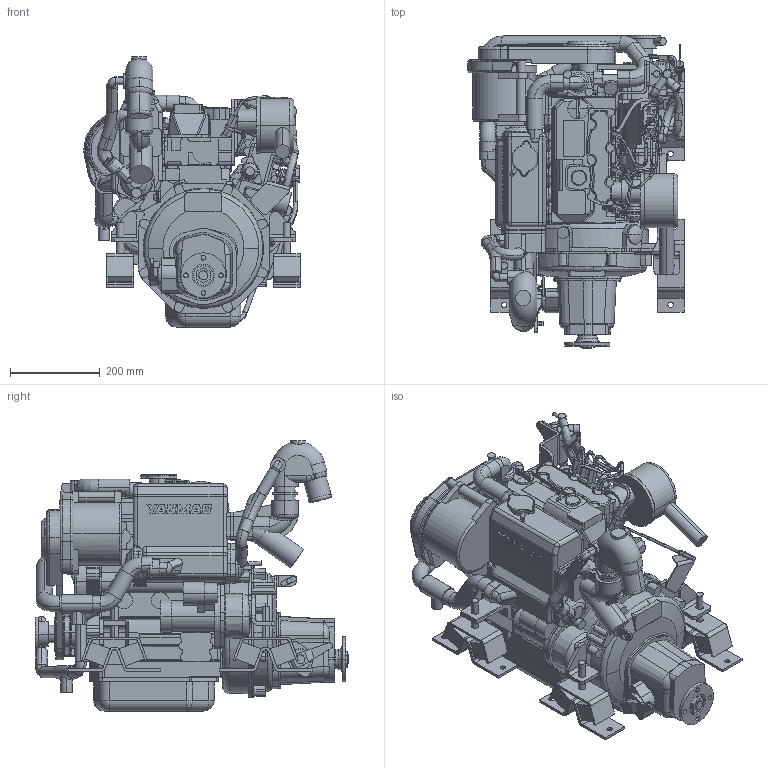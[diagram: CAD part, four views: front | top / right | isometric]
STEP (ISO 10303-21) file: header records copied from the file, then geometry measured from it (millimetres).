
FILE_DESCRIPTION(('CoCreate Modeling STEP Export'),'2;1');
FILE_NAME('YM_3YM20_KM2P-1_R2010-01.stp','2010-03-24T 9:40:44',(''),(''),'CoCreate Modeling STEP processor for AP214 (Solid Model)','CoCreate Modeling 16.00D 29-May-2009 (C) Parametric Technology GmbH','');
FILE_SCHEMA(('AUTOMOTIVE_DESIGN { 1 0 10303 214 1 1 1 1 }'));
Length unit declared in the file: millimetre
Products named in the file (62): 3YM_005; 3YM_024; 3YM_001; 3YM_007; 3YM_002; 3YM_003; 3YM_015; 3YM_046; 3YM_043; 3YM_038; 3YM_023; 3YM_034; 3YM_026; 3YM_006; 3YM_040; 3YM_014; 3YM_025; 3YM_018; 3YM_019; 3YM_017; 3YM_016; 3YM_032; 3YM_027; 3YM_035; 3YM_031; 3YM_028; 3YM_030; 3YM_029; 3YM_036; 3YM_033; 3YM_013; 3YM_039; 3YM_008; 3YM_009; 3YM_045; 3YM_042; 3YM_022; 3YM_037; 3YM_012; 3YM_041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
Assembly tree (61 placements, depth 4):
  YM_3YM20_KM2P-1_R2010-01
    Center_of_gravity
      C.O.G._P5
      C.O.G._P6
      C.O.G._P4
      C.O.G._P3
      C.O.G._P2
      C.O.G._P1
    KM2P-1_Gearbox-YM_R2010-01
      KM2P-1_YM_001
      KM2P-1_YM_002
    3YM_Engine_Gearbox_R2010-01
      Mixing-elbow
        3M_type-1_001
        3YM_type-2_001
      Base
        3YM_044
        3YM_011
        3YM_010
        3YM_021
        3YM_020
        3YM_004
        3YM_041
        3YM_012
        3YM_037
        3YM_022
        3YM_042
        3YM_045
        3YM_009
        3YM_008
        3YM_039
        3YM_013
        3YM_033
        3YM_036
        3YM_029
        3YM_030
        3YM_028
        3YM_031
        3YM_035
        3YM_027
        3YM_032
        3YM_016
        3YM_017
        3YM_019
        3YM_018
        3YM_025
        3YM_014
        3YM_040
        3YM_006
        3YM_026
        3YM_034
        3YM_023
        3YM_038
        3YM_043
        3YM_046
        3YM_015
        3YM_003
        3YM_002
        3YM_007
        3YM_001
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Bounding box: 480.64 x 696.5 x 600.3 mm (x, y, z)
Volume: 47086031.9 mm3; surface area: 3731496 mm2
Topology: 56 solids, 56 shells, 4114 faces, 11172 edges, 7279 vertices
Faces by surface type: cylinder 1834, plane 1765, revolution 165, torus 140, cone 129, sphere 41, bspline 36, extrusion 4
Entity records: 128300 total; most frequent: CARTESIAN_POINT 29569, ORIENTED_EDGE 22284, DIRECTION 18468, EDGE_CURVE 11142, VERTEX_POINT 7279, AXIS2_PLACEMENT_3D 6225, VECTOR 5876, LINE 5873
